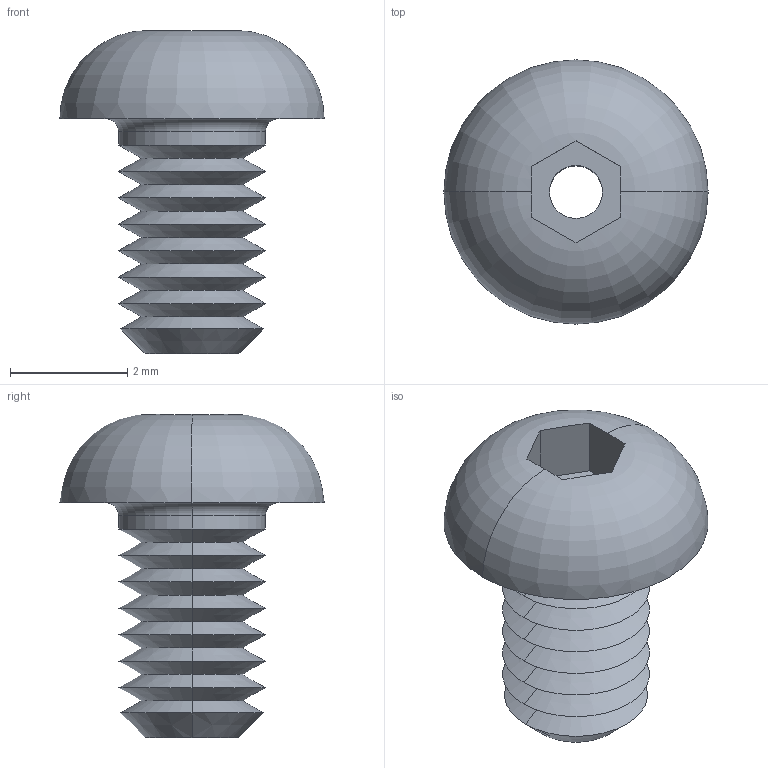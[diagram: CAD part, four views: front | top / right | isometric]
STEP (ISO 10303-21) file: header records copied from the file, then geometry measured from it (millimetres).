
FILE_DESCRIPTION (( 'STEP AP203' ), '1' );
FILE_NAME ('P0094.025-004-A2.step', '2019-07-12T16:49:53', ( '' ), ( '' ), 'SwSTEP 2.0', 'SolidWorks 2017', '' );
FILE_SCHEMA (( 'CONFIG_CONTROL_DESIGN' ));
Length unit declared in the file: millimetre
Products named in the file (1): P0094.025-004-A2
Bounding box: 4.5 x 4.5 x 5.5 mm (x, y, z)
Volume: 27.9 mm3; surface area: 104.7 mm2
Topology: 1 solids, 1 shells, 47 faces, 100 edges, 56 vertices
Faces by surface type: cone 30, plane 9, cylinder 4, torus 4
Entity records: 1345 total; most frequent: CARTESIAN_POINT 240, DIRECTION 234, ORIENTED_EDGE 200, EDGE_CURVE 100, AXIS2_PLACEMENT_3D 94, VERTEX_POINT 56, EDGE_LOOP 50, FACE_OUTER_BOUND 47
